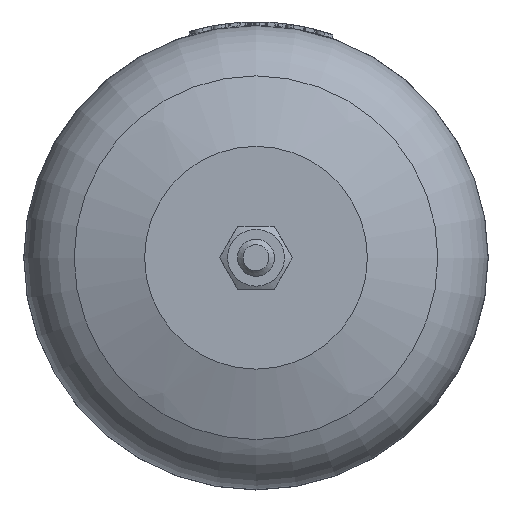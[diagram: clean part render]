
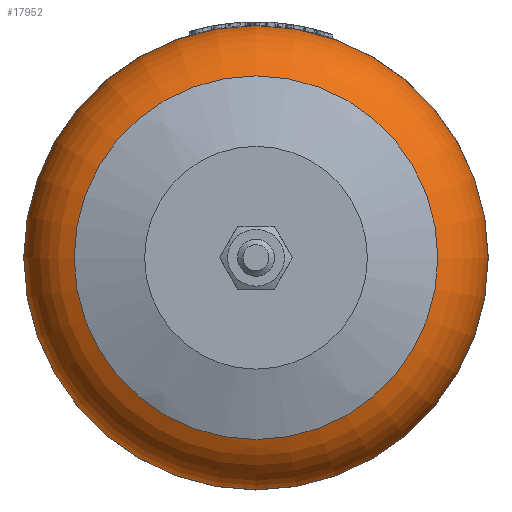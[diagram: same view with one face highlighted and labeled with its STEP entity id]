
A CAD part, front view. The second image highlights one B-rep face of the part: STEP entity #17952.
In plain terms, the highlighted toroidal (fillet/blend) face has major radius 40.5 mm and minor radius 22 mm.
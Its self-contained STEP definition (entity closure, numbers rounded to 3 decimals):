
#45=TOROIDAL_SURFACE('',#19264,40.5,22.);
#1203=CIRCLE('',#19157,62.5);
#1243=CIRCLE('',#19265,48.986);
#4211=FACE_BOUND('',#6331,.T.);
#5207=FACE_OUTER_BOUND('',#6330,.T.);
#6330=EDGE_LOOP('',(#16825));
#6331=EDGE_LOOP('',(#16826));
#8794=VERTEX_POINT('',#38544);
#8854=VERTEX_POINT('',#38868);
#11441=EDGE_CURVE('',#8794,#8794,#1203,.T.);
#11514=EDGE_CURVE('',#8854,#8854,#1243,.T.);
#16825=ORIENTED_EDGE('',*,*,#11514,.F.);
#16826=ORIENTED_EDGE('',*,*,#11441,.T.);
#17952=ADVANCED_FACE('',(#5207,#4211),#45,.T.);
#19157=AXIS2_PLACEMENT_3D('',#38545,#22891,#22892);
#19264=AXIS2_PLACEMENT_3D('',#38867,#23123,#23124);
#19265=AXIS2_PLACEMENT_3D('',#38869,#23125,#23126);
#22891=DIRECTION('center_axis',(0.,-1.,0.));
#22892=DIRECTION('ref_axis',(0.,0.,
-1.));
#23123=DIRECTION('center_axis',(0.,-1.,0.));
#23124=DIRECTION('ref_axis',(1.,0.,0.));
#23125=DIRECTION('center_axis',(0.,-1.,0.));
#23126=DIRECTION('ref_axis',(0.,0.,
-1.));
#38544=CARTESIAN_POINT('',(0.,26.235,-62.5));
#38545=CARTESIAN_POINT('Origin',(0.,26.235,
0.));
#38867=CARTESIAN_POINT('Origin',(0.,26.235,
0.));
#38868=CARTESIAN_POINT('',(0.,5.938,-48.986));
#38869=CARTESIAN_POINT('Origin',(0.,5.938,
0.));
